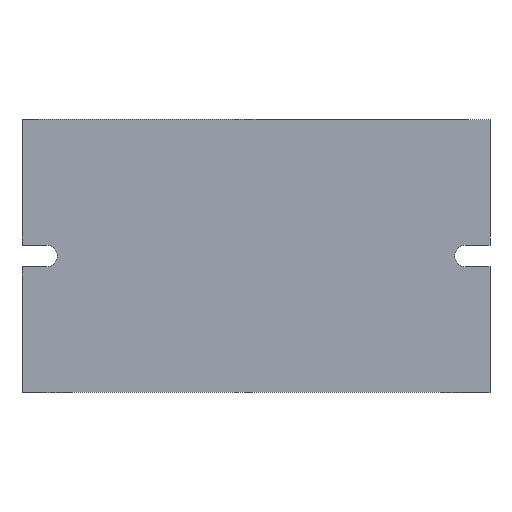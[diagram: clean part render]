
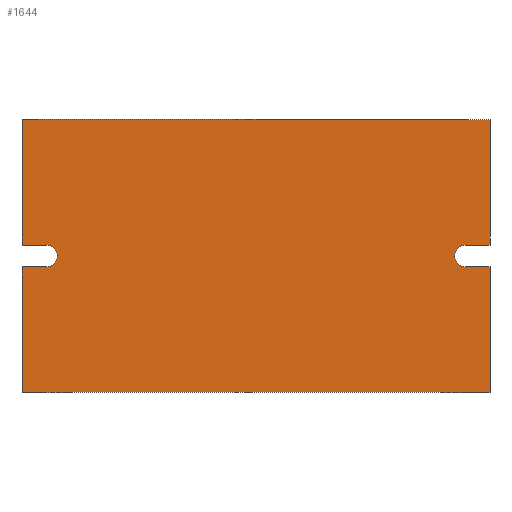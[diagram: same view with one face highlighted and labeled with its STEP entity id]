
A CAD part, front view. The second image highlights one B-rep face of the part: STEP entity #1644.
In plain terms, the highlighted planar face has unit normal (0, -1, 0).
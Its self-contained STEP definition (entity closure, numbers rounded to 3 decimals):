
#16 = ORIENTED_EDGE ( 'NONE', *, *, #997, .T. ) ;
#19 = EDGE_CURVE ( 'NONE', #1095, #917, #1397, .T. ) ;
#26 = ORIENTED_EDGE ( 'NONE', *, *, #852, .F. ) ;
#34 = DIRECTION ( 'NONE',  ( 0., 0., 1. ) ) ;
#44 = VECTOR ( 'NONE', #349, 1000. ) ;
#46 = AXIS2_PLACEMENT_3D ( 'NONE', #154, #1636, #161 ) ;
#77 = DIRECTION ( 'NONE',  ( 1., 0., 0. ) ) ;
#89 = EDGE_CURVE ( 'NONE', #917, #522, #1020, .T. ) ;
#105 = CARTESIAN_POINT ( 'NONE',  ( -48., 0., 2.25 ) ) ;
#118 = DIRECTION ( 'NONE',  ( -1., 0., 0. ) ) ;
#136 = CARTESIAN_POINT ( 'NONE',  ( -48., 0., 28. ) ) ;
#145 = VERTEX_POINT ( 'NONE', #248 ) ;
#148 = ORIENTED_EDGE ( 'NONE', *, *, #548, .F. ) ;
#154 = CARTESIAN_POINT ( 'NONE',  ( 43., 0., 0. ) ) ;
#161 = DIRECTION ( 'NONE',  ( 0., 0., 1. ) ) ;
#175 = VECTOR ( 'NONE', #34, 1000. ) ;
#195 = DIRECTION ( 'NONE',  ( 0., 0., -1. ) ) ;
#213 = CARTESIAN_POINT ( 'NONE',  ( 48., 0., 28. ) ) ;
#240 = EDGE_CURVE ( 'NONE', #145, #416, #352, .T. ) ;
#248 = CARTESIAN_POINT ( 'NONE',  ( 43., 0., 2.25 ) ) ;
#262 = ORIENTED_EDGE ( 'NONE', *, *, #89, .F. ) ;
#270 = CARTESIAN_POINT ( 'NONE',  ( 0., 0., 0. ) ) ;
#275 = CARTESIAN_POINT ( 'NONE',  ( -43., 0., 2.25 ) ) ;
#279 = CARTESIAN_POINT ( 'NONE',  ( -48., 0., -28. ) ) ;
#316 = VECTOR ( 'NONE', #505, 1000. ) ;
#343 = CARTESIAN_POINT ( 'NONE',  ( 48., 0., -28. ) ) ;
#349 = DIRECTION ( 'NONE',  ( 1., 0., 0. ) ) ;
#352 = LINE ( 'NONE', #1404, #1237 ) ;
#357 = CARTESIAN_POINT ( 'NONE',  ( -48., 0., -2.25 ) ) ;
#360 = CARTESIAN_POINT ( 'NONE',  ( 48., 0., 2.25 ) ) ;
#377 = AXIS2_PLACEMENT_3D ( 'NONE', #270, #1240, #1205 ) ;
#416 = VERTEX_POINT ( 'NONE', #360 ) ;
#428 = CIRCLE ( 'NONE', #46, 2.25 ) ;
#429 = EDGE_CURVE ( 'NONE', #522, #686, #645, .T. ) ;
#465 = CARTESIAN_POINT ( 'NONE',  ( -43., 0., 0. ) ) ;
#496 = LINE ( 'NONE', #1334, #316 ) ;
#505 = DIRECTION ( 'NONE',  ( -1., 0., 0. ) ) ;
#522 = VERTEX_POINT ( 'NONE', #279 ) ;
#545 = AXIS2_PLACEMENT_3D ( 'NONE', #465, #708, #610 ) ;
#548 = EDGE_CURVE ( 'NONE', #974, #1050, #1361, .T. ) ;
#586 = EDGE_CURVE ( 'NONE', #1050, #1106, #1258, .T. ) ;
#610 = DIRECTION ( 'NONE',  ( 0., 0., 1. ) ) ;
#616 = ORIENTED_EDGE ( 'NONE', *, *, #240, .T. ) ;
#645 = LINE ( 'NONE', #136, #674 ) ;
#674 = VECTOR ( 'NONE', #1316, 1000. ) ;
#686 = VERTEX_POINT ( 'NONE', #357 ) ;
#687 = CARTESIAN_POINT ( 'NONE',  ( -48., 0., 28. ) ) ;
#708 = DIRECTION ( 'NONE',  ( 0., 1., 0. ) ) ;
#723 = CARTESIAN_POINT ( 'NONE',  ( 48., 0., 28. ) ) ;
#733 = CIRCLE ( 'NONE', #545, 2.25 ) ;
#760 = CARTESIAN_POINT ( 'NONE',  ( 48., 0., -28. ) ) ;
#764 = VECTOR ( 'NONE', #118, 1000. ) ;
#766 = CARTESIAN_POINT ( 'NONE',  ( 43., 0., -2.25 ) ) ;
#793 = LINE ( 'NONE', #766, #764 ) ;
#852 = EDGE_CURVE ( 'NONE', #1106, #416, #1010, .T. ) ;
#871 = VERTEX_POINT ( 'NONE', #878 ) ;
#878 = CARTESIAN_POINT ( 'NONE',  ( -43., 0., -2.25 ) ) ;
#913 = LINE ( 'NONE', #1715, #1019 ) ;
#917 = VERTEX_POINT ( 'NONE', #760 ) ;
#923 = VERTEX_POINT ( 'NONE', #1301 ) ;
#948 = CARTESIAN_POINT ( 'NONE',  ( 48., 0., 28. ) ) ;
#974 = VERTEX_POINT ( 'NONE', #105 ) ;
#997 = EDGE_CURVE ( 'NONE', #974, #1070, #913, .T. ) ;
#1010 = LINE ( 'NONE', #1275, #1043 ) ;
#1019 = VECTOR ( 'NONE', #1692, 1000. ) ;
#1020 = LINE ( 'NONE', #343, #1182 ) ;
#1043 = VECTOR ( 'NONE', #195, 1000. ) ;
#1050 = VERTEX_POINT ( 'NONE', #1061 ) ;
#1061 = CARTESIAN_POINT ( 'NONE',  ( -48., 0., 28. ) ) ;
#1064 = ORIENTED_EDGE ( 'NONE', *, *, #1504, .T. ) ;
#1070 = VERTEX_POINT ( 'NONE', #275 ) ;
#1076 = FACE_OUTER_BOUND ( 'NONE', #1708, .T. ) ;
#1082 = EDGE_CURVE ( 'NONE', #923, #145, #428, .T. ) ;
#1087 = CARTESIAN_POINT ( 'NONE',  ( 48., 0., -2.25 ) ) ;
#1095 = VERTEX_POINT ( 'NONE', #1087 ) ;
#1106 = VERTEX_POINT ( 'NONE', #948 ) ;
#1134 = VECTOR ( 'NONE', #1159, 1000. ) ;
#1159 = DIRECTION ( 'NONE',  ( 0., 0., -1. ) ) ;
#1168 = ORIENTED_EDGE ( 'NONE', *, *, #19, .F. ) ;
#1182 = VECTOR ( 'NONE', #1553, 1000. ) ;
#1205 = DIRECTION ( 'NONE',  ( 0., 0., 1. ) ) ;
#1237 = VECTOR ( 'NONE', #77, 1000. ) ;
#1240 = DIRECTION ( 'NONE',  ( 0., 1., 0. ) ) ;
#1246 = ORIENTED_EDGE ( 'NONE', *, *, #1433, .T. ) ;
#1258 = LINE ( 'NONE', #723, #44 ) ;
#1275 = CARTESIAN_POINT ( 'NONE',  ( 48., 0., 28. ) ) ;
#1301 = CARTESIAN_POINT ( 'NONE',  ( 43., 0., -2.25 ) ) ;
#1316 = DIRECTION ( 'NONE',  ( 0., 0., 1. ) ) ;
#1334 = CARTESIAN_POINT ( 'NONE',  ( -43., 0., -2.25 ) ) ;
#1361 = LINE ( 'NONE', #687, #175 ) ;
#1371 = ORIENTED_EDGE ( 'NONE', *, *, #429, .F. ) ;
#1397 = LINE ( 'NONE', #213, #1134 ) ;
#1404 = CARTESIAN_POINT ( 'NONE',  ( 48., 0., 2.25 ) ) ;
#1427 = ORIENTED_EDGE ( 'NONE', *, *, #1613, .T. ) ;
#1433 = EDGE_CURVE ( 'NONE', #1070, #871, #733, .T. ) ;
#1470 = PLANE ( 'NONE',  #377 ) ;
#1504 = EDGE_CURVE ( 'NONE', #871, #686, #496, .T. ) ;
#1553 = DIRECTION ( 'NONE',  ( -1., 0., 0. ) ) ;
#1604 = ORIENTED_EDGE ( 'NONE', *, *, #586, .F. ) ;
#1613 = EDGE_CURVE ( 'NONE', #1095, #923, #793, .T. ) ;
#1632 = ORIENTED_EDGE ( 'NONE', *, *, #1082, .T. ) ;
#1636 = DIRECTION ( 'NONE',  ( 0., 1., 0. ) ) ;
#1644 = ADVANCED_FACE ( 'NONE', ( #1076 ), #1470, .F. ) ;
#1692 = DIRECTION ( 'NONE',  ( 1., 0., 0. ) ) ;
#1708 = EDGE_LOOP ( 'NONE', ( #148, #16, #1246, #1064, #1371, #262, #1168, #1427, #1632, #616, #26, #1604 ) ) ;
#1715 = CARTESIAN_POINT ( 'NONE',  ( -48., 0., 2.25 ) ) ;
